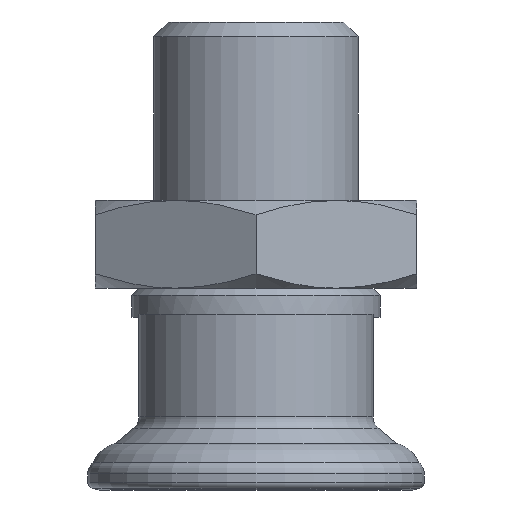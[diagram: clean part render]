
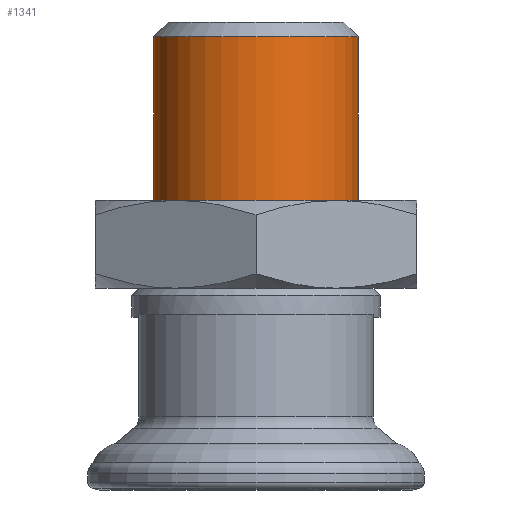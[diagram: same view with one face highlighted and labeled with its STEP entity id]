
A CAD part, left-side view. The second image highlights one B-rep face of the part: STEP entity #1341.
In plain terms, the highlighted cylindrical face has radius 7 mm (diameter 14 mm), a full revolution.
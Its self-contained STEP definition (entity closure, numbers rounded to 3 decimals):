
#25=CYLINDRICAL_SURFACE('',#1465,7.);
#130=FACE_OUTER_BOUND('',#220,.T.);
#220=EDGE_LOOP('',(#902,#903,#904,#905));
#315=CIRCLE('',#1463,7.);
#317=CIRCLE('',#1466,7.);
#401=LINE('',#2143,#471);
#471=VECTOR('',#1687,7.);
#554=VERTEX_POINT('',#2136);
#556=VERTEX_POINT('',#2142);
#678=EDGE_CURVE('',#554,#554,#315,.T.);
#681=EDGE_CURVE('',#554,#556,#401,.T.);
#682=EDGE_CURVE('',#556,#556,#317,.T.);
#902=ORIENTED_EDGE('',*,*,#678,.F.);
#903=ORIENTED_EDGE('',*,*,#681,.T.);
#904=ORIENTED_EDGE('',*,*,#682,.T.);
#905=ORIENTED_EDGE('',*,*,#681,.F.);
#1341=ADVANCED_FACE('',(#130),#25,.T.);
#1463=AXIS2_PLACEMENT_3D('',#2137,#1680,#1681);
#1465=AXIS2_PLACEMENT_3D('',#2141,#1685,#1686);
#1466=AXIS2_PLACEMENT_3D('',#2144,#1688,#1689);
#1680=DIRECTION('center_axis',(0.,0.,
1.));
#1681=DIRECTION('ref_axis',(-1.,0.,0.));
#1685=DIRECTION('center_axis',(0.,0.,
1.));
#1686=DIRECTION('ref_axis',(-1.,0.,0.));
#1687=DIRECTION('',(0.,0.,-1.));
#1688=DIRECTION('center_axis',(0.,0.,
1.));
#1689=DIRECTION('ref_axis',(-1.,0.,0.));
#2136=CARTESIAN_POINT('',(7.,0.,27.2));
#2137=CARTESIAN_POINT('Origin',(0.,0.,
27.2));
#2141=CARTESIAN_POINT('Origin',(0.,0.,
10.));
#2142=CARTESIAN_POINT('',(7.,0.,16.));
#2143=CARTESIAN_POINT('',(7.,0.,10.));
#2144=CARTESIAN_POINT('Origin',(0.,0.,
16.));
